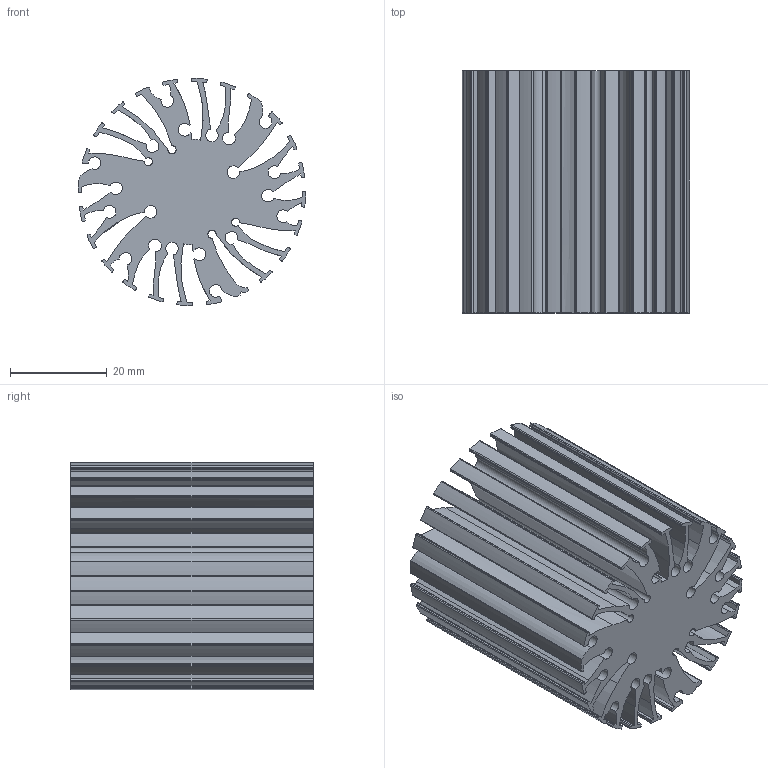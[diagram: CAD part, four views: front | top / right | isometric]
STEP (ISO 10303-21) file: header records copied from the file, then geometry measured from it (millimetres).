
FILE_DESCRIPTION (( 'STEP AP203' ), '1' );
FILE_NAME ('XSA-215.STEP', '2014-04-02T09:02:22', ( '' ), ( '' ), 'SwSTEP 2.0', 'SolidWorks 2013', '' );
FILE_SCHEMA (( 'CONFIG_CONTROL_DESIGN' ));
Length unit declared in the file: millimetre
Products named in the file (1): XSA-215
Bounding box: 47 x 50 x 47 mm (x, y, z)
Volume: 48778.9 mm3; surface area: 35707.1 mm2
Topology: 1 solids, 1 shells, 341 faces, 1018 edges, 679 vertices
Faces by surface type: cylinder 191, plane 119, bspline 31
Entity records: 13137 total; most frequent: CARTESIAN_POINT 3740, ORIENTED_EDGE 2036, DIRECTION 1946, EDGE_CURVE 1018, AXIS2_PLACEMENT_3D 691, VERTEX_POINT 679, VECTOR 564, LINE 564
